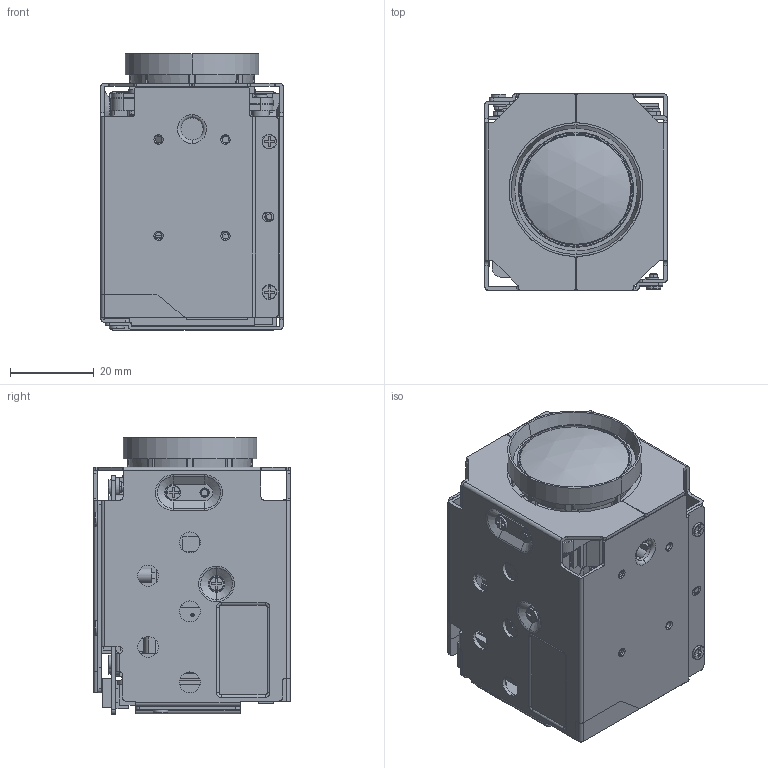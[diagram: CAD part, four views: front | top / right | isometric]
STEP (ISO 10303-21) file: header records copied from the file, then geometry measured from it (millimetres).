
FILE_DESCRIPTION((''),'2;1');
FILE_NAME('00_10LGHD_ASM','2025-01-10T',('USER'),(''),'PRO/ENGINEER BY PARAMETRIC TECHNOLOGY CORPORATION, 2012300','PRO/ENGINEER BY PARAMETRIC TECHNOLOGY CORPORATION, 2012300','');
FILE_SCHEMA(('AUTOMOTIVE_DESIGN_CC2 { 1 2 10303 214 -1 1 5 2 }'));
Length unit declared in the file: millimetre
Products named in the file (14): F159-3D_FPC_-210225_1; SPACER_SENSOR_10LGHD_1; SHEET_SENSOR_10LGHD_1; NEW_SHIELD_SENSOR_10LGHD_1; NEW_PCB_SENSOR_10LGHD_IMX900_1; 837102062_TS_CH_M2X6_1; 561591134_PAD_TM_30X20X6T_1; PCB_MAIN_10LGHD_1; 837002042A_TS_CH_M2X4_1; 10LGHD_BOTTOM_CHASS_1; 817002032A_MS_CH_M2X3_1; PRT0001; 00_10LGHD_ASM
Assembly tree (26 placements, depth 3):
  00_10LGHD_ASM
    00_10LGHD_ASM
      F159-3D_FPC_-210225_1
      SPACER_SENSOR_10LGHD_1
      SHEET_SENSOR_10LGHD_1
      NEW_SHIELD_SENSOR_10LGHD_1
      NEW_PCB_SENSOR_10LGHD_IMX900_1
      837102062_TS_CH_M2X6_1  x3
      561591134_PAD_TM_30X20X6T_1
      PCB_MAIN_10LGHD_1
      837002042A_TS_CH_M2X4_1  x5
      10LGHD_BOTTOM_CHASS_1
      817002032A_MS_CH_M2X3_1  x8
      PRT0001
Bounding box: 43.6 x 47 x 66.1 mm (x, y, z)
Volume: 19275.6 mm3; surface area: 86632.2 mm2
Topology: 24 solids, 114 shells, 3898 faces, 13239 edges, 9472 vertices
Faces by surface type: plane 2094, cylinder 1320, torus 264, cone 189, bspline 30, sphere 1
Entity records: 169586 total; most frequent: CARTESIAN_POINT 31805, DIRECTION 22810, ORIENTED_EDGE 21938, EDGE_CURVE 12362, VERTEX_POINT 8896, AXIS2_PLACEMENT_3D 7791, VECTOR 7228, LINE 7228
